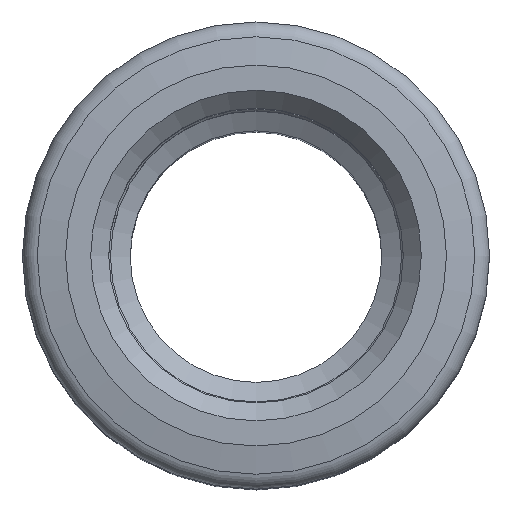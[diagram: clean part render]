
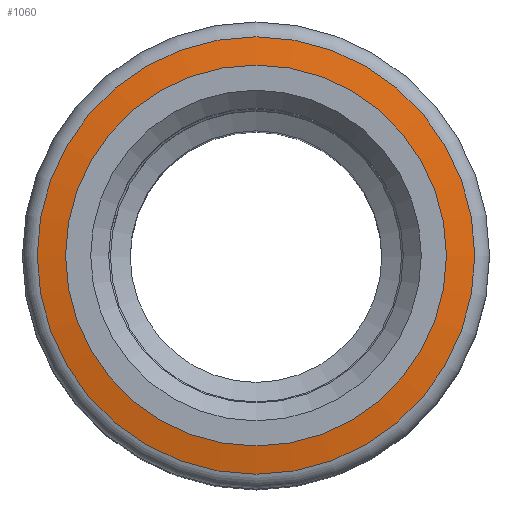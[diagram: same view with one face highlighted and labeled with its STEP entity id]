
A CAD part, top view. The second image highlights one B-rep face of the part: STEP entity #1060.
In plain terms, the highlighted conical face has half-angle 80 degrees and reference radius 6.087 mm.
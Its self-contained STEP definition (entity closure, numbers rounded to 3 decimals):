
#1060=ADVANCED_FACE('', (#1070,#1080), #1090, .T.);
#3430=AXIS2_PLACEMENT_3D('Ax2Pl3d', #3440, #3450, #3460);
#3470=AXIS2_PLACEMENT_3D('Ax2Pl3d', #3480, #3490, #3500);
#3510=AXIS2_PLACEMENT_3D('Ax2Pl3d', #3520, #3530, #3540);
#3440=CARTESIAN_POINT('HicPkt', (10.616,10.79,
41.907));
#4380=CARTESIAN_POINT('', (16.703,10.79,41.907));
#3480=CARTESIAN_POINT('HicPkt', (10.616,10.79,
41.907));
#3520=CARTESIAN_POINT('HicPkt', (10.616,10.79,
42.045));
#4390=CARTESIAN_POINT('', (15.916,10.79,42.045));
#4700=CIRCLE('Circle', #3430, 6.087);
#4710=CIRCLE('Circle', #3510, 5.3);
#1090=CONICAL_SURFACE('Kegel', #3470, 6.087, 
1.396);
#3450=DIRECTION('Axis', (0.,0.,1.));
#3460=DIRECTION('RefDirection', (1.,0.,-0.));
#3490=DIRECTION('Axis', (0.,0.,-1.));
#3500=DIRECTION('RefDirection', (-1.,-0.,0.));
#3530=DIRECTION('Axis', (0.,0.,1.));
#3540=DIRECTION('RefDirection', (1.,0.,-0.));
#6320=EDGE_CURVE('', #6330, #6330, #4700, .T.);
#6340=EDGE_CURVE('', #6350, #6350, #4710, .T.);
#7440=EDGE_LOOP('Edge_loop', (#7450));
#7460=EDGE_LOOP('Edge_loop', (#7470));
#1080=FACE_BOUND('', #7460, .T.);
#1070=FACE_OUTER_BOUND('Face_outer_bound', #7440, .T.);
#7450=ORIENTED_EDGE('', *, *, #6320, .T.);
#7470=ORIENTED_EDGE('', *, *, #6340, .F.);
#6330=VERTEX_POINT('', #4380);
#6350=VERTEX_POINT('', #4390);
